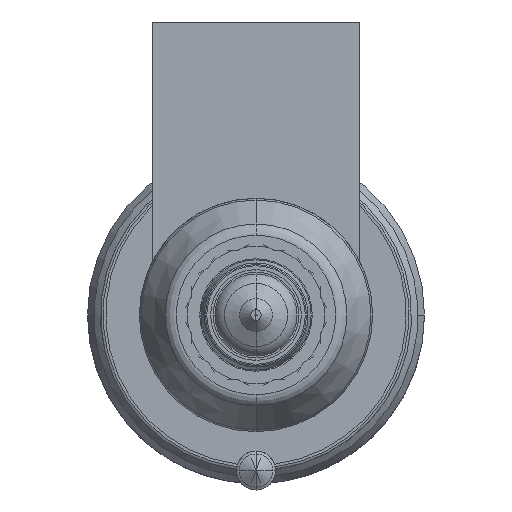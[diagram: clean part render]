
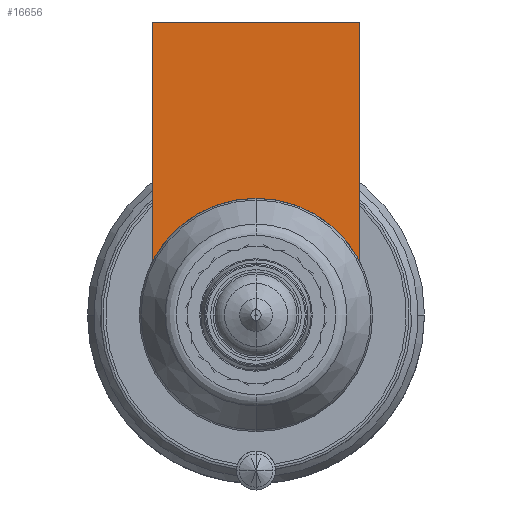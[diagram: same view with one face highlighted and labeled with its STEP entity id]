
A CAD part, front view. The second image highlights one B-rep face of the part: STEP entity #16656.
In plain terms, the highlighted planar face has unit normal (0, -1, 0).
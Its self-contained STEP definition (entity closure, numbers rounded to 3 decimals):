
#15244=DIRECTION('',(0.,0.,-1.));
#15245=VECTOR('',#15244,18.481);
#15246=CARTESIAN_POINT('',(-8.,-54.,22.604));
#15247=LINE('',#15246,#15245);
#15838=CARTESIAN_POINT('',(0.,-54.,0.));
#15839=DIRECTION('',(0.,-1.,0.));
#15840=DIRECTION('',(0.,0.,1.));
#15841=AXIS2_PLACEMENT_3D('',#15838,#15839,#15840);
#15846=DIRECTION('',(1.,0.,0.));
#15847=VECTOR('',#15846,16.);
#15848=CARTESIAN_POINT('',(-8.,-54.,22.604));
#15849=LINE('',#15848,#15847);
#15853=CARTESIAN_POINT('',(0.,-54.,0.));
#15854=DIRECTION('',(0.,-1.,0.));
#15855=DIRECTION('',(0.889,0.,0.458));
#15856=AXIS2_PLACEMENT_3D('',#15853,#15854,#15855);
#15937=DIRECTION('',(0.,0.,-1.));
#15938=VECTOR('',#15937,18.481);
#15939=CARTESIAN_POINT('',(8.,-54.,22.604));
#15940=LINE('',#15939,#15938);
#16042=CARTESIAN_POINT('',(-8.,-54.,22.604));
#16043=VERTEX_POINT('',#16042);
#16048=CARTESIAN_POINT('',(8.,-54.,22.604));
#16049=VERTEX_POINT('',#16048);
#16051=CARTESIAN_POINT('',(-8.,-54.,4.123));
#16053=VERTEX_POINT('',#16051);
#16055=CARTESIAN_POINT('',(8.,-54.,4.123));
#16057=VERTEX_POINT('',#16055);
#16058=CARTESIAN_POINT('',(0.,-54.,9.));
#16059=VERTEX_POINT('',#16058);
#16642=CARTESIAN_POINT('',(-8.,-54.,22.604));
#16643=DIRECTION('',(0.,-1.,0.));
#16644=DIRECTION('',(0.,0.,-1.));
#16645=AXIS2_PLACEMENT_3D('',#16642,#16643,#16644);
#16646=PLANE('',#16645);
#16647=ORIENTED_EDGE('',*,*,#16099,.T.);
#16648=ORIENTED_EDGE('',*,*,#16082,.F.);
#16650=ORIENTED_EDGE('',*,*,#16649,.T.);
#16652=ORIENTED_EDGE('',*,*,#16651,.T.);
#16653=ORIENTED_EDGE('',*,*,#16147,.T.);
#16654=EDGE_LOOP('',(#16647,#16648,#16650,#16652,#16653));
#16655=FACE_OUTER_BOUND('',#16654,.F.);
#16656=ADVANCED_FACE('',(#16655),#16646,.T.);
#15842=CIRCLE('',#15841,9.);
#15857=CIRCLE('',#15856,9.);
#16082=EDGE_CURVE('',#16043,#16053,#15247,.T.);
#16099=EDGE_CURVE('',#16059,#16053,#15842,.T.);
#16147=EDGE_CURVE('',#16057,#16059,#15857,.T.);
#16649=EDGE_CURVE('',#16043,#16049,#15849,.T.);
#16651=EDGE_CURVE('',#16049,#16057,#15940,.T.);
